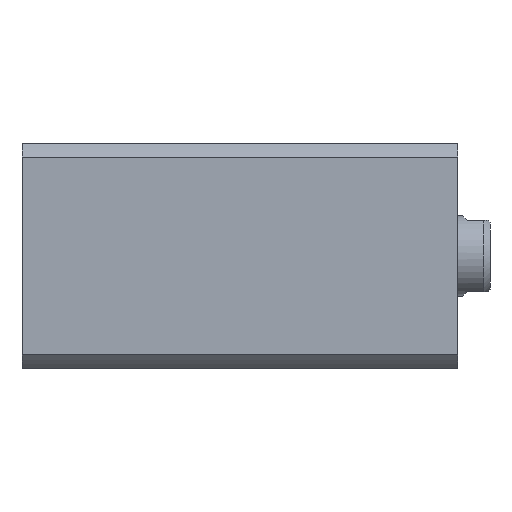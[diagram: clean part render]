
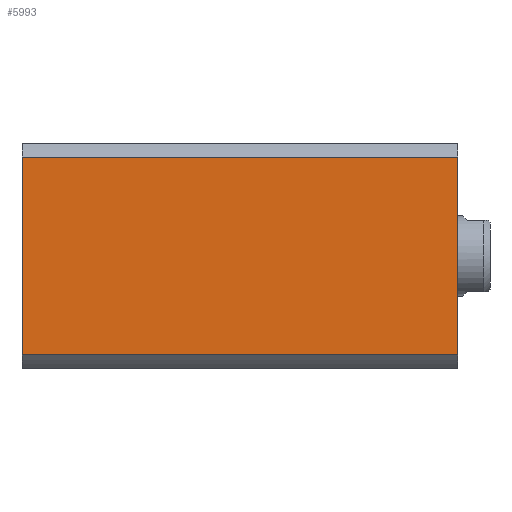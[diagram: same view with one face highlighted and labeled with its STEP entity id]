
A CAD part, left-side view. The second image highlights one B-rep face of the part: STEP entity #5993.
In plain terms, the highlighted planar face has unit normal (-1, 0, 0).
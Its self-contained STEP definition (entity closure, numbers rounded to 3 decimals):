
#377 = VECTOR ( 'NONE', #4906, 1000. ) ;
#383 = VERTEX_POINT ( 'NONE', #6502 ) ;
#590 = DIRECTION ( 'NONE',  ( 0., 0., -1. ) ) ;
#697 = DIRECTION ( 'NONE',  ( 0., 0., 1. ) ) ;
#756 = VERTEX_POINT ( 'NONE', #2391 ) ;
#1068 = CARTESIAN_POINT ( 'NONE',  ( -35., -30.615, 0. ) ) ;
#1295 = VECTOR ( 'NONE', #697, 1000. ) ;
#1311 = ORIENTED_EDGE ( 'NONE', *, *, #9201, .F. ) ;
#1715 = EDGE_CURVE ( 'NONE', #756, #5741, #8295, .T. ) ;
#2149 = VECTOR ( 'NONE', #2604, 1000. ) ;
#2391 = CARTESIAN_POINT ( 'NONE',  ( -35., 30.615, 135. ) ) ;
#2482 = LINE ( 'NONE', #4145, #377 ) ;
#2604 = DIRECTION ( 'NONE',  ( 0., -1., 0. ) ) ;
#3048 = ORIENTED_EDGE ( 'NONE', *, *, #4907, .T. ) ;
#3371 = DIRECTION ( 'NONE',  ( 1., 0., 0. ) ) ;
#4145 = CARTESIAN_POINT ( 'NONE',  ( -35., 35., 0. ) ) ;
#4347 = LINE ( 'NONE', #9852, #7728 ) ;
#4906 = DIRECTION ( 'NONE',  ( 0., -1., 0. ) ) ;
#4907 = EDGE_CURVE ( 'NONE', #383, #7961, #2482, .T. ) ;
#5474 = ORIENTED_EDGE ( 'NONE', *, *, #1715, .F. ) ;
#5554 = AXIS2_PLACEMENT_3D ( 'NONE', #5657, #3371, #8721 ) ;
#5657 = CARTESIAN_POINT ( 'NONE',  ( -35., 35., 135. ) ) ;
#5741 = VERTEX_POINT ( 'NONE', #6760 ) ;
#5993 = ADVANCED_FACE ( 'NONE', ( #6792 ), #6426, .F. ) ;
#6176 = CARTESIAN_POINT ( 'NONE',  ( -35., 30.615, 300. ) ) ;
#6426 = PLANE ( 'NONE',  #5554 ) ;
#6502 = CARTESIAN_POINT ( 'NONE',  ( -35., 30.615, 0. ) ) ;
#6760 = CARTESIAN_POINT ( 'NONE',  ( -35., -30.615, 135. ) ) ;
#6792 = FACE_OUTER_BOUND ( 'NONE', #7345, .T. ) ;
#7345 = EDGE_LOOP ( 'NONE', ( #7869, #5474, #1311, #3048 ) ) ;
#7387 = CARTESIAN_POINT ( 'NONE',  ( -35., 35., 135. ) ) ;
#7467 = LINE ( 'NONE', #6176, #1295 ) ;
#7728 = VECTOR ( 'NONE', #590, 1000. ) ;
#7869 = ORIENTED_EDGE ( 'NONE', *, *, #8930, .F. ) ;
#7961 = VERTEX_POINT ( 'NONE', #1068 ) ;
#8295 = LINE ( 'NONE', #7387, #2149 ) ;
#8721 = DIRECTION ( 'NONE',  ( 0., 1., 0. ) ) ;
#8930 = EDGE_CURVE ( 'NONE', #5741, #7961, #4347, .T. ) ;
#9201 = EDGE_CURVE ( 'NONE', #383, #756, #7467, .T. ) ;
#9852 = CARTESIAN_POINT ( 'NONE',  ( -35., -30.615, 300. ) ) ;
